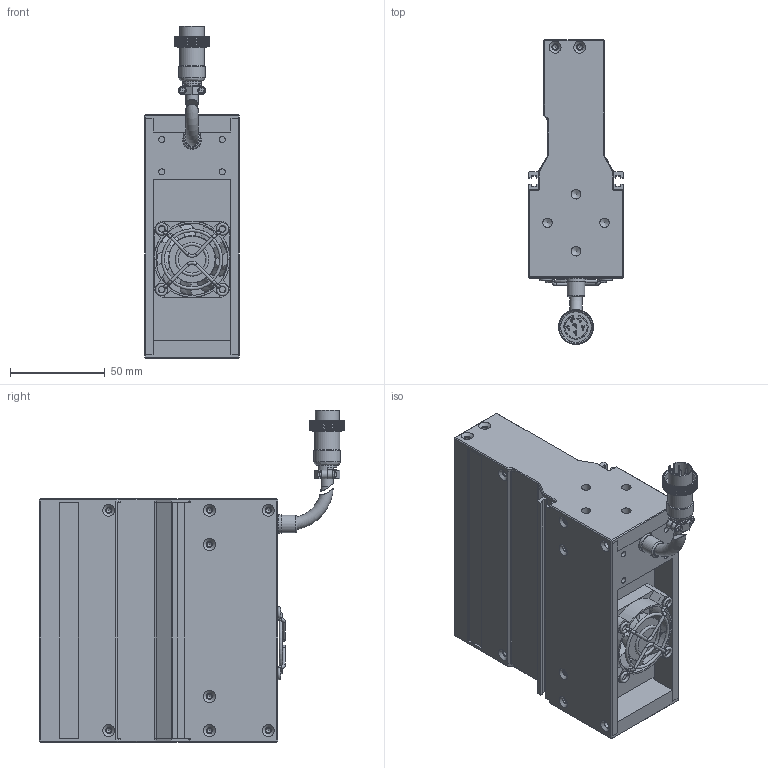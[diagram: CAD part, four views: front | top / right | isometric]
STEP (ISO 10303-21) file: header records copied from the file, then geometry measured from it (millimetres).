
FILE_DESCRIPTION (( 'STEP AP203' ), '1' );
FILE_NAME ('OPT-LSSC128-R-V3.1U尨砩芞.STEP', '2025-01-23T08:49:33', ( 'USER' ), ( '' ), 'SwSTEP 2.0', 'SolidWorks 2016', '' );
FILE_SCHEMA (( 'CONFIG_CONTROL_DESIGN' ));
Length unit declared in the file: millimetre
Products named in the file (2): OPT-LSSC128-R-V3.1U尨砩芞
Bounding box: 50 x 160.65 x 174.83 mm (x, y, z)
Volume: 497896.8 mm3; surface area: 118290.3 mm2
Topology: 9 solids, 17 shells, 3626 faces, 8028 edges, 4487 vertices
Faces by surface type: bspline 2086, cylinder 711, plane 703, torus 63, cone 63
Full cylindrical faces by diameter (mm): 0.95 x6, 1.6 x4, 2 x5, 2.5 x20, 3.2 x8, 3.4 x22, 4 x4, 5 x8, 6.2 x4, 6.4 x3, 7.5 x1, 8.6 x1, 9.3 x1, 9.8 x1, 10 x1, 13.2 x1, 14 x1, 16.1 x1, 24.8 x1, 38 x1
Entity records: 122028 total; most frequent: CARTESIAN_POINT 61544, ORIENTED_EDGE 15576, EDGE_CURVE 7788, DIRECTION 5944, B_SPLINE_CURVE_WITH_KNOTS 5449, VERTEX_POINT 4428, EDGE_LOOP 3892, FACE_OUTER_BOUND 3746
